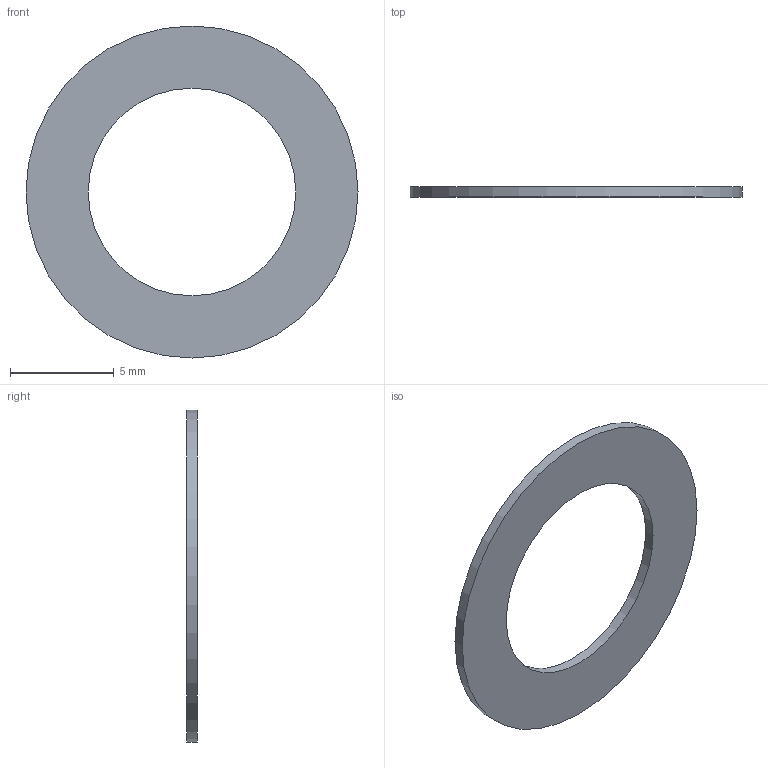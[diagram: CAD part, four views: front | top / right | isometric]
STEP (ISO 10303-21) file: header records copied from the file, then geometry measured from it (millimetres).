
FILE_DESCRIPTION(/* description */ (''),/* implementation_level */ '2;1');
FILE_NAME(/* name */ 'Precision Shim - 10mm - 0.5mm.step',/* time_stamp */ '2025-08-19T17:59:46+03:00',/* author */ (''),/* organization */ (''),/* preprocessor_version */ 'ST-DEVELOPER v20.1',/* originating_system */ 'Autodesk Translation Framework v14.10.0.0',/* authorisation */ '');
FILE_SCHEMA (('AUTOMOTIVE_DESIGN { 1 0 10303 214 3 1 1 }'));
Length unit declared in the file: millimetre
Products named in the file (1): Precision Shim - 10mm - 0.5mm
Bounding box: 16 x 0.5 x 16 mm (x, y, z)
Volume: 61.3 mm3; surface area: 285.9 mm2
Topology: 1 solids, 1 shells, 4 faces, 6 edges, 4 vertices
Faces by surface type: cylinder 2, plane 2
Full cylindrical faces by diameter (mm): 10 x1, 16 x1
Entity records: 138 total; most frequent: DIRECTION 20, CARTESIAN_POINT 15, ORIENTED_EDGE 12, AXIS2_PLACEMENT_3D 9, EDGE_LOOP 6, EDGE_CURVE 6, FACE_OUTER_BOUND 4, CIRCLE 4
